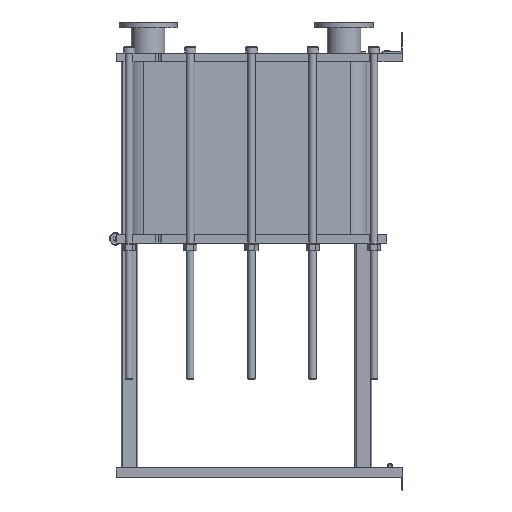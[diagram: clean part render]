
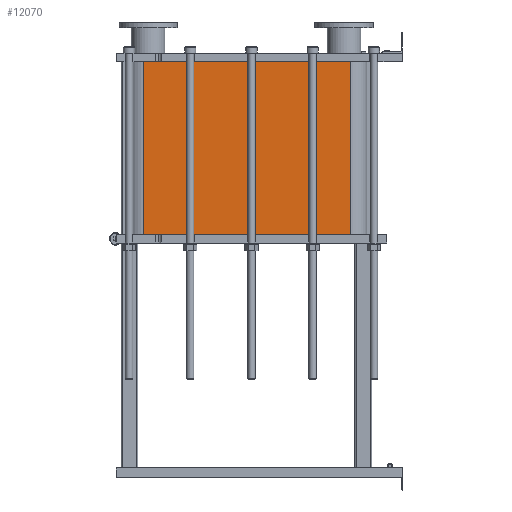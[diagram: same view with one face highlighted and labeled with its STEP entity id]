
A CAD part, left-side view. The second image highlights one B-rep face of the part: STEP entity #12070.
In plain terms, the highlighted planar face has unit normal (-1, 0, 0).
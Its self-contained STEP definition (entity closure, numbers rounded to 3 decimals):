
#1064=LINE('',#21140,#2164);
#1065=LINE('',#21144,#2165);
#1066=LINE('',#21146,#2166);
#1067=LINE('',#21147,#2167);
#2164=VECTOR('',#15790,10.);
#2165=VECTOR('',#15795,10.);
#2166=VECTOR('',#15796,10.);
#2167=VECTOR('',#15797,10.);
#3304=FACE_OUTER_BOUND('',#4091,.T.);
#4091=EDGE_LOOP('',(#9793,#9794,#9795,#9796));
#5677=VERTEX_POINT('',#21137);
#5678=VERTEX_POINT('',#21139);
#5679=VERTEX_POINT('',#21143);
#5680=VERTEX_POINT('',#21145);
#7118=EDGE_CURVE('',#5678,#5677,#1064,.T.);
#7120=EDGE_CURVE('',#5677,#5679,#1065,.T.);
#7121=EDGE_CURVE('',#5680,#5679,#1066,.T.);
#7122=EDGE_CURVE('',#5680,#5678,#1067,.T.);
#9793=ORIENTED_EDGE('',*,*,#7120,.T.);
#9794=ORIENTED_EDGE('',*,*,#7121,.F.);
#9795=ORIENTED_EDGE('',*,*,#7122,.T.);
#9796=ORIENTED_EDGE('',*,*,#7118,.T.);
#11441=PLANE('',#13191);
#12070=ADVANCED_FACE('',(#3304),#11441,.T.);
#13191=AXIS2_PLACEMENT_3D('',#21142,#15793,#15794);
#15790=DIRECTION('',(0.,0.,-1.));
#15793=DIRECTION('center_axis',(-1.,0.,0.));
#15794=DIRECTION('ref_axis',(0.,1.,0.));
#15795=DIRECTION('',(0.,-1.,0.));
#15796=DIRECTION('',(0.,0.,-1.));
#15797=DIRECTION('',(0.,1.,0.));
#21137=CARTESIAN_POINT('',(-248.152,1243.818,-831.45));
#21139=CARTESIAN_POINT('',(-248.152,1243.818,0.));
#21140=CARTESIAN_POINT('',(-248.152,1243.818,0.));
#21142=CARTESIAN_POINT('Origin',(-248.152,251.818,0.));
#21143=CARTESIAN_POINT('',(-248.152,251.818,-831.45));
#21144=CARTESIAN_POINT('',(-248.152,499.818,-831.45));
#21145=CARTESIAN_POINT('',(-248.152,251.818,0.));
#21146=CARTESIAN_POINT('',(-248.152,251.818,0.));
#21147=CARTESIAN_POINT('',(-248.152,251.818,0.));
